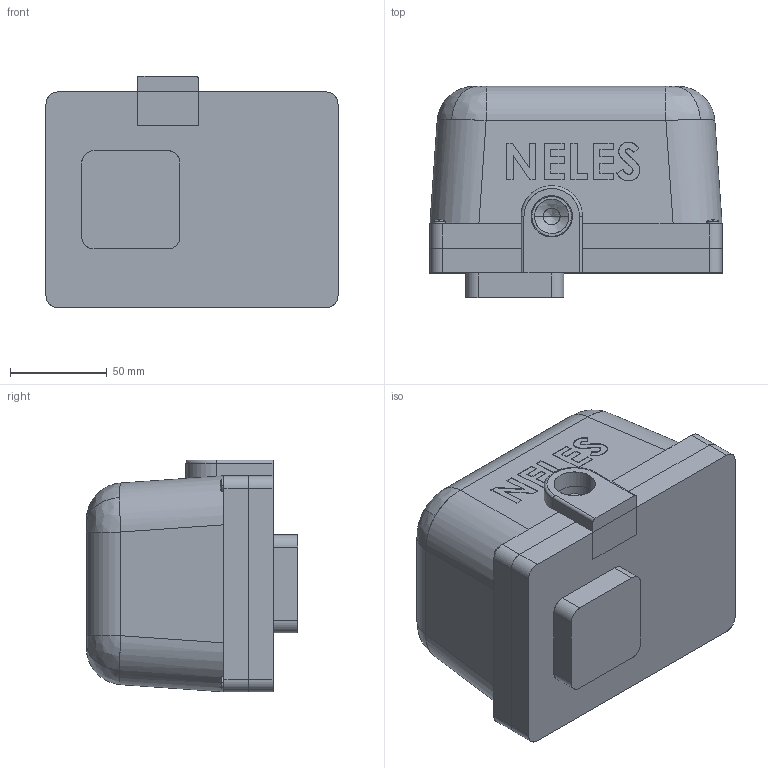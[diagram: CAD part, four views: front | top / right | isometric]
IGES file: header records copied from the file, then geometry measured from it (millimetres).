
Start section: SolidWorks IGES file using analytic representation for surfaces
Global section: file name: W:\Mike Lovejoy\LCU.IGS; native system: SolidWorks 2020; preprocessor: SolidWorks 2020; author: sbulovejmi; date: 240509.091238; units: millimetre
Bounding box: 151.13 x 109.22 x 119.89 mm (x, y, z)
Surface area: 118875.8 mm2 (no closed solid volume)
Topology: 0 solids, 0 shells, 250 faces, 2891 edges, 2889 vertices
Faces by surface type: bspline 199, revolution 51
